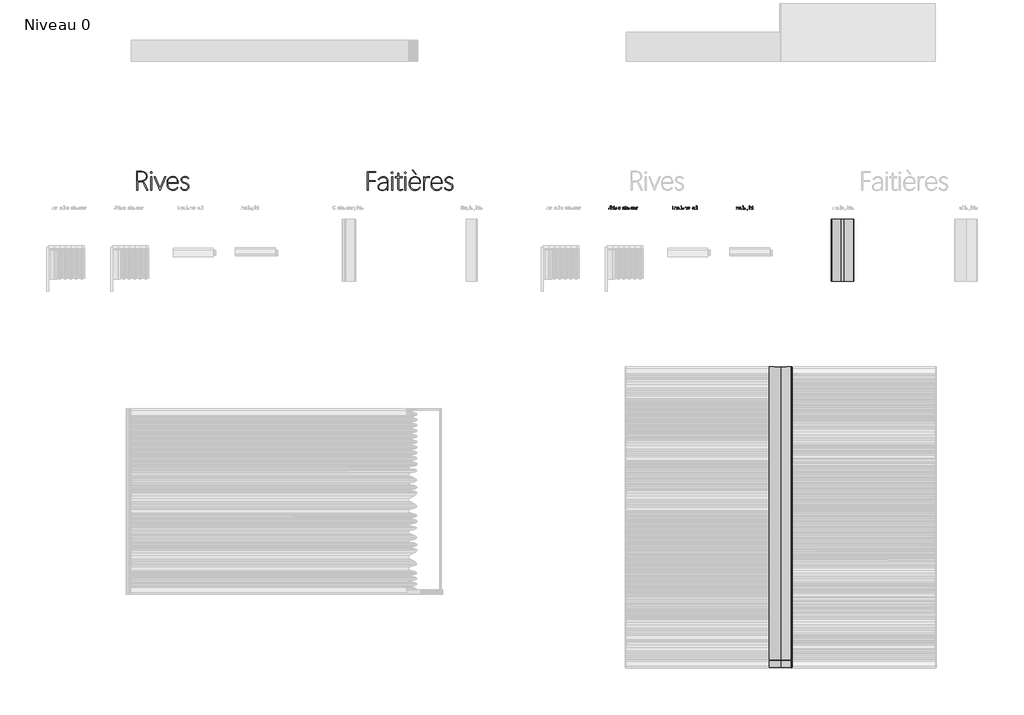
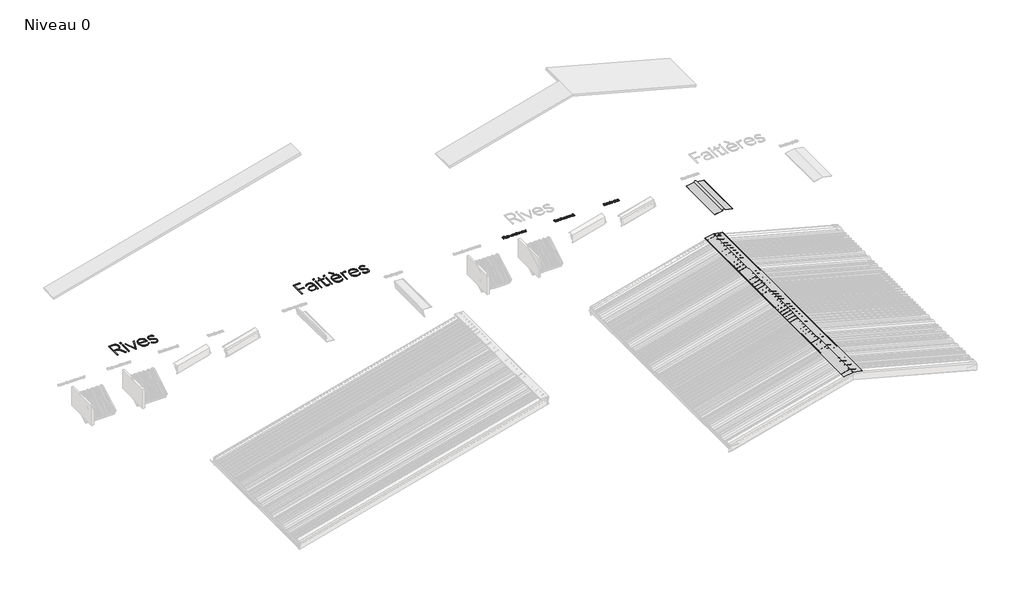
# One storey, part 21 of 26: 7 proxies.
"""IFC4 building model written with IfcOpenShell, lengths in millimetres."""

from ifc_helpers import new_model, si_unit, origin, origin_with_axes, place, context, project, spatial, polyline, outline, extrude, transform, mapped, element, save
from components import generic_models_b31ef93d, generic_models_02f5a9cf

model = new_model("IFC4")

# Units and contexts
model_context = context("Model", 3, world=origin())
ifc_project = project(units=[si_unit("LENGTHUNIT", "METRE", prefix="MILLI")], contexts=[model_context])

# Site, building, storey
site = spatial("IfcSite", under=ifc_project)
building = spatial("IfcBuilding", under=site)
storey = spatial("IfcBuildingStorey", under=building, Name="Niveau 0", Elevation=0.0)

# Proxies
placement = place(None, origin())
generic_models_shape = generic_models_b31ef93d(model_context)
element("IfcBuildingElementProxy", 1, Name="Faitiaire a bondin plat : Faitiaire a bondin plat", ObjectType="Faitiaire a bondin plat : Faitiaire a bondin plat", at=placement, inside=storey, context=model_context, shape_type="MappedRepresentation", body=[
    mapped(generic_models_shape, transform((36043.1822429, -8404.0846084, 0.0), x_axis=(0.0, -1.0, 0.0), y_axis=(1.0, 0.0, 0.0), z_axis=(0.0, 0.0, 1.0))),
])
generic_models_2_shape = generic_models_02f5a9cf(model_context)
element("IfcBuildingElementProxy", 2, Name="Faitaire a double plat : Faitaire a double plat", ObjectType="Faitaire a double plat : Faitaire a double plat", at=placement, inside=storey, context=model_context, shape_type="MappedRepresentation", body=[
    mapped(generic_models_2_shape, transform((35043.1824672, -10783.686041, 680.0), x_axis=(0.0, -1.0, 0.0), y_axis=(1.0, 0.0, 0.0), z_axis=(0.0, 0.0, 1.0))),
])
element("IfcBuildingElementProxy", 3, Name="0.5mm", ObjectType="0.5mm", at=placement, inside=storey, context=model_context, shape_type="SweptSolid", body=[
    extrude(outline(polyline([(34301.2173677, -8239.2596825), (34301.2173677, -8189.2569805), (34313.6696919, -8189.2569805), (34323.0721637, -8192.4481675), (34326.6278453, -8201.0398249), (34324.1358927, -8208.4487346), (34317.4931654, -8213.0011972), (34325.3632723, -8217.0627079), (34328.517266, -8225.6915586), (34324.5227033, -8235.4957183), (34313.9374838, -8239.2596825), (34301.2173677, -8239.2596825)]), holes=[polyline([(34303.5233537, -8191.4141931), (34303.5233537, -8212.2722081), (34311.1107914, -8212.2722081), (34320.6545978, -8209.237233), (34324.26235, -8201.1885981), (34321.3687096, -8193.9954097), (34313.2382494, -8191.4141931), (34303.5233537, -8191.4141931)]), polyline([(34303.5233537, -8214.3996661), (34303.5233537, -8237.0578378), (34313.5953053, -8237.0578378), (34322.8043718, -8234.0600561), (34326.1517708, -8225.8700866), (34322.246472, -8217.2561132), (34311.3339513, -8214.3996661), (34303.5233537, -8214.3996661)])]), origin_with_axes(), (0.0, 0.0, 1.0), 10.0),
    extrude(outline(polyline([(34361.4705493, -8239.2596825), (34359.2984593, -8239.2596825), (34359.2984593, -8232.3863566), (34354.0542009, -8237.9356002), (34346.5039565, -8240.0928129), (34338.470199, -8237.3033137), (34335.6286292, -8230.1547573), (34338.7305522, -8222.8871822), (34348.4677639, -8219.145534), (34359.3430913, -8217.6131691), (34359.3430913, -8215.5154658), (34356.6056628, -8207.4817082), (34349.196753, -8204.7442797), (34342.9705909, -8206.4179792), (34338.4850763, -8211.364691), (34336.5063916, -8210.2488914), (34341.9217393, -8204.6178224), (34349.196753, -8202.676331), (34358.1380276, -8206.0088527), (34361.4705493, -8215.5452204), (34361.4705493, -8239.2596825)]), holes=[polyline([(34359.2984593, -8225.3493801), (34359.2984593, -8219.6662405), (34348.7355558, -8221.094464), (34340.4935157, -8224.0699298), (34337.8602285, -8230.095248), (34340.2480398, -8235.9494768), (34346.6824845, -8238.1141282), (34355.5568111, -8234.4319893), (34359.2984593, -8225.3493801)])]), origin_with_axes(), (0.0, 0.0, 1.0), 10.0),
    extrude(outline(polyline([(34398.3960793, -8239.2596825), (34396.2686213, -8239.2596825), (34396.2686213, -8217.018076), (34393.5460701, -8207.9652214), (34385.9735098, -8204.7442797), (34377.4041684, -8208.19582), (34374.0865241, -8217.018076), (34374.0865241, -8239.2596825), (34371.9293114, -8239.2596825), (34371.9293114, -8203.5540934), (34374.0865241, -8203.5540934), (34374.0865241, -8209.6537982), (34378.9886039, -8204.4764878), (34386.0925284, -8202.676331), (34395.1676989, -8206.4626112), (34398.3960793, -8216.8097934), (34398.3960793, -8239.2596825)])), origin_with_axes(), (0.0, 0.0, 1.0), 10.0),
    extrude(outline(polyline([(34433.7966831, -8231.5532262), (34428.5821794, -8237.8314589), (34420.6674405, -8240.0928129), (34409.6805332, -8235.1237851), (34405.5371971, -8221.9275945), (34410.260749, -8207.8387641), (34421.9915227, -8202.676331), (34429.0136219, -8204.4021012), (34433.7446125, -8209.3116197), (34433.8487538, -8186.4005334), (34436.0059664, -8186.4005334), (34436.0059664, -8239.2596825), (34433.8487538, -8239.2596825), (34433.7966831, -8231.5532262)]), holes=[polyline([(34407.7687964, -8221.7936985), (34411.3765486, -8233.7699482), (34420.7269498, -8238.0397415), (34430.2707562, -8233.9410374), (34433.8487538, -8223.6087326), (34433.8487538, -8216.1403136), (34430.4641615, -8208.0172921), (34421.9468907, -8204.7442797), (34411.7931138, -8209.3413743), (34407.7687964, -8221.7936985)])]), origin_with_axes(), (0.0, 0.0, 1.0), 10.0),
    extrude(outline(polyline([(34474.0324188, -8220.4770549), (34446.7622751, -8220.7374082), (34450.3402727, -8233.7476322), (34460.196503, -8238.0694962), (34466.9508103, -8236.3957967), (34471.7264328, -8231.3746982), (34473.6158536, -8232.3863566), (34468.1409966, -8238.1661988), (34460.196503, -8240.1374449), (34448.8227852, -8235.3543837), (34444.5753078, -8220.6332669), (34448.9789971, -8207.5932882), (34460.196503, -8202.676331), (34470.4023505, -8207.176723), (34474.0324188, -8220.4770549)]), holes=[polyline([(34471.8305741, -8218.7289688), (34468.5724391, -8208.2776453), (34460.1221164, -8204.7442797), (34451.0246298, -8208.3669093), (34446.8664164, -8218.7289688), (34471.8305741, -8218.7289688)])]), origin_with_axes(), (0.0, 0.0, 1.0), 10.0),
    extrude(outline(polyline([(34501.7786369, -8233.1897323), (34501.6744956, -8255.6842534), (34499.517283, -8255.6842534), (34499.517283, -8203.5540934), (34501.6744956, -8203.5540934), (34501.6744956, -8211.6771149), (34506.896438, -8205.1905996), (34515.3467608, -8202.676331), (34526.0733148, -8207.5784109), (34530.0306843, -8220.320843), (34525.7013816, -8234.9303798), (34514.1565745, -8240.0928129), (34506.4947501, -8238.1587601), (34501.7786369, -8233.1897323)]), holes=[polyline([(34501.6744956, -8219.7257498), (34501.6744956, -8226.0783692), (34505.1781066, -8234.5361306), (34514.2012065, -8238.0397415), (34524.0648754, -8233.5616656), (34527.799085, -8220.3654749), (34524.3772993, -8209.0140731), (34515.2426195, -8204.7442797), (34505.2673705, -8209.1554077), (34501.6744956, -8219.7257498)])]), origin_with_axes(), (0.0, 0.0, 1.0), 10.0),
    extrude(outline(polyline([(34538.5553937, -8239.2596825), (34538.5553937, -8186.4005334), (34540.7126063, -8186.4005334), (34540.7126063, -8239.2596825), (34538.5553937, -8239.2596825)])), origin_with_axes(), (0.0, 0.0, 1.0), 10.0),
    extrude(outline(polyline([(34575.7040836, -8239.2596825), (34573.5319936, -8239.2596825), (34573.5319936, -8232.3863566), (34568.2877352, -8237.9356002), (34560.7374909, -8240.0928129), (34552.7037333, -8237.3033137), (34549.8621635, -8230.1547573), (34552.9640866, -8222.8871822), (34562.7012983, -8219.145534), (34573.5766256, -8217.6131691), (34573.5766256, -8215.5154658), (34570.8391971, -8207.4817082), (34563.4302874, -8204.7442797), (34557.2041253, -8206.4179792), (34552.7186106, -8211.364691), (34550.7399259, -8210.2488914), (34556.1552736, -8204.6178224), (34563.4302874, -8202.676331), (34572.371562, -8206.0088527), (34575.7040836, -8215.5452204), (34575.7040836, -8239.2596825)]), holes=[polyline([(34573.5319936, -8225.3493801), (34573.5319936, -8219.6662405), (34562.9690902, -8221.094464), (34554.72705, -8224.0699298), (34552.0937628, -8230.095248), (34554.4815741, -8235.9494768), (34560.9160188, -8238.1141282), (34569.7903454, -8234.4319893), (34573.5319936, -8225.3493801)])]), origin_with_axes(), (0.0, 0.0, 1.0), 10.0),
    extrude(outline(polyline([(34600.8021372, -8237.519035), (34597.8638648, -8239.3861398), (34594.6280458, -8239.9589169), (34589.59207, -8238.0025482), (34587.9034932, -8232.1483193), (34587.9034932, -8205.5476555), (34581.3574685, -8205.5476555), (34581.3574685, -8203.5540934), (34587.9034932, -8203.5540934), (34587.9034932, -8193.9582164), (34590.0607059, -8193.5862831), (34590.0607059, -8203.5540934), (34599.7904789, -8203.5540934), (34599.7904789, -8205.5476555), (34590.0607059, -8205.5476555), (34590.0607059, -8231.999546), (34591.2508922, -8236.4850607), (34594.7768191, -8237.9653549), (34597.2315783, -8237.496719), (34599.5524416, -8235.9420382), (34600.8021372, -8237.519035)])), origin_with_axes(), (0.0, 0.0, 1.0), 10.0),
])
element("IfcBuildingElementProxy", 4, Name="0.5mm", ObjectType="0.5mm", at=placement, inside=storey, context=model_context, shape_type="SweptSolid", body=[
    extrude(outline(polyline([(33301.2173677, -8239.2596825), (33301.2173677, -8189.2569805), (33313.6696919, -8189.2569805), (33323.0721637, -8192.4481675), (33326.6278453, -8201.0398249), (33324.1358927, -8208.4487346), (33317.4931654, -8213.0011972), (33325.3632723, -8217.0627079), (33328.517266, -8225.6915586), (33324.5227033, -8235.4957183), (33313.9374838, -8239.2596825), (33301.2173677, -8239.2596825)]), holes=[polyline([(33303.5233537, -8191.4141931), (33303.5233537, -8212.2722081), (33311.1107914, -8212.2722081), (33320.6545978, -8209.237233), (33324.26235, -8201.1885981), (33321.3687096, -8193.9954097), (33313.2382494, -8191.4141931), (33303.5233537, -8191.4141931)]), polyline([(33303.5233537, -8214.3996661), (33303.5233537, -8237.0578378), (33313.5953053, -8237.0578378), (33322.8043718, -8234.0600561), (33326.1517708, -8225.8700866), (33322.246472, -8217.2561132), (33311.3339513, -8214.3996661), (33303.5233537, -8214.3996661)])]), origin_with_axes(), (0.0, 0.0, 1.0), 10.0),
    extrude(outline(polyline([(33361.4705493, -8239.2596825), (33359.2984593, -8239.2596825), (33359.2984593, -8232.3863566), (33354.0542009, -8237.9356002), (33346.5039565, -8240.0928129), (33338.470199, -8237.3033137), (33335.6286292, -8230.1547573), (33338.7305522, -8222.8871822), (33348.4677639, -8219.145534), (33359.3430913, -8217.6131691), (33359.3430913, -8215.5154658), (33356.6056628, -8207.4817082), (33349.196753, -8204.7442797), (33342.9705909, -8206.4179792), (33338.4850763, -8211.364691), (33336.5063916, -8210.2488914), (33341.9217393, -8204.6178224), (33349.196753, -8202.676331), (33358.1380276, -8206.0088527), (33361.4705493, -8215.5452204), (33361.4705493, -8239.2596825)]), holes=[polyline([(33359.2984593, -8225.3493801), (33359.2984593, -8219.6662405), (33348.7355558, -8221.094464), (33340.4935157, -8224.0699298), (33337.8602285, -8230.095248), (33340.2480398, -8235.9494768), (33346.6824845, -8238.1141282), (33355.5568111, -8234.4319893), (33359.2984593, -8225.3493801)])]), origin_with_axes(), (0.0, 0.0, 1.0), 10.0),
    extrude(outline(polyline([(33398.3960793, -8239.2596825), (33396.2686213, -8239.2596825), (33396.2686213, -8217.018076), (33393.5460701, -8207.9652214), (33385.9735098, -8204.7442797), (33377.4041684, -8208.19582), (33374.0865241, -8217.018076), (33374.0865241, -8239.2596825), (33371.9293114, -8239.2596825), (33371.9293114, -8203.5540934), (33374.0865241, -8203.5540934), (33374.0865241, -8209.6537982), (33378.9886039, -8204.4764878), (33386.0925284, -8202.676331), (33395.1676989, -8206.4626112), (33398.3960793, -8216.8097934), (33398.3960793, -8239.2596825)])), origin_with_axes(), (0.0, 0.0, 1.0), 10.0),
    extrude(outline(polyline([(33433.7966831, -8231.5532262), (33428.5821794, -8237.8314589), (33420.6674405, -8240.0928129), (33409.6805332, -8235.1237851), (33405.5371971, -8221.9275945), (33410.260749, -8207.8387641), (33421.9915227, -8202.676331), (33429.0136219, -8204.4021012), (33433.7446125, -8209.3116197), (33433.8487538, -8186.4005334), (33436.0059664, -8186.4005334), (33436.0059664, -8239.2596825), (33433.8487538, -8239.2596825), (33433.7966831, -8231.5532262)]), holes=[polyline([(33407.7687964, -8221.7936985), (33411.3765486, -8233.7699482), (33420.7269498, -8238.0397415), (33430.2707562, -8233.9410374), (33433.8487538, -8223.6087326), (33433.8487538, -8216.1403136), (33430.4641615, -8208.0172921), (33421.9468907, -8204.7442797), (33411.7931138, -8209.3413743), (33407.7687964, -8221.7936985)])]), origin_with_axes(), (0.0, 0.0, 1.0), 10.0),
    extrude(outline(polyline([(33474.0324188, -8220.4770549), (33446.7622751, -8220.7374082), (33450.3402727, -8233.7476322), (33460.196503, -8238.0694962), (33466.9508103, -8236.3957967), (33471.7264328, -8231.3746982), (33473.6158536, -8232.3863566), (33468.1409966, -8238.1661988), (33460.196503, -8240.1374449), (33448.8227852, -8235.3543837), (33444.5753078, -8220.6332669), (33448.9789971, -8207.5932882), (33460.196503, -8202.676331), (33470.4023505, -8207.176723), (33474.0324188, -8220.4770549)]), holes=[polyline([(33471.8305741, -8218.7289688), (33468.5724391, -8208.2776453), (33460.1221164, -8204.7442797), (33451.0246298, -8208.3669093), (33446.8664164, -8218.7289688), (33471.8305741, -8218.7289688)])]), origin_with_axes(), (0.0, 0.0, 1.0), 10.0),
    extrude(outline(polyline([(33523.3358863, -8239.2596825), (33521.1637963, -8239.2596825), (33521.1637963, -8232.3863566), (33515.9195379, -8237.9356002), (33508.3692936, -8240.0928129), (33500.335536, -8237.3033137), (33497.4939662, -8230.1547573), (33500.5958893, -8222.8871822), (33510.333101, -8219.145534), (33521.2084283, -8217.6131691), (33521.2084283, -8215.5154658), (33518.4709998, -8207.4817082), (33511.0620901, -8204.7442797), (33504.835928, -8206.4179792), (33500.3504134, -8211.364691), (33498.3717286, -8210.2488914), (33503.7870763, -8204.6178224), (33511.0620901, -8202.676331), (33520.0033647, -8206.0088527), (33523.3358863, -8215.5452204), (33523.3358863, -8239.2596825)]), holes=[polyline([(33521.1637963, -8225.3493801), (33521.1637963, -8219.6662405), (33510.6008929, -8221.094464), (33502.3588527, -8224.0699298), (33499.7255656, -8230.095248), (33502.1133768, -8235.9494768), (33508.5478215, -8238.1141282), (33517.4221481, -8234.4319893), (33521.1637963, -8225.3493801)])]), origin_with_axes(), (0.0, 0.0, 1.0), 10.0),
    extrude(outline(polyline([(33549.5943716, -8205.5476555), (33547.8686015, -8204.960001), (33546.1428313, -8204.803789), (33538.8008696, -8209.0066344), (33535.9221065, -8221.1242187), (33535.9221065, -8239.2596825), (33533.7946484, -8239.2596825), (33533.7946484, -8203.5540934), (33535.9221065, -8203.5540934), (33535.9221065, -8211.4390777), (33539.9315466, -8205.071581), (33546.2469726, -8202.8251043), (33548.300044, -8202.9961936), (33550.427502, -8203.6582347), (33549.5943716, -8205.5476555)])), origin_with_axes(), (0.0, 0.0, 1.0), 10.0),
    extrude(outline(polyline([(33572.4459486, -8205.5476555), (33570.7201785, -8204.960001), (33568.9944083, -8204.803789), (33561.6524466, -8209.0066344), (33558.7736835, -8221.1242187), (33558.7736835, -8239.2596825), (33556.6462254, -8239.2596825), (33556.6462254, -8203.5540934), (33558.7736835, -8203.5540934), (33558.7736835, -8211.4390777), (33562.7831236, -8205.071581), (33569.0985496, -8202.8251043), (33571.151621, -8202.9961936), (33573.279079, -8203.6582347), (33572.4459486, -8205.5476555)])), origin_with_axes(), (0.0, 0.0, 1.0), 10.0),
    extrude(outline(polyline([(33593.7949154, -8240.0928129), (33581.5731898, -8234.9303798), (33576.9240246, -8221.4812746), (33581.7294018, -8207.9131508), (33593.9288113, -8202.676331), (33606.0687116, -8207.9280281), (33610.6658062, -8221.406888), (33606.0092023, -8234.8783092), (33593.7949154, -8240.0928129)]), holes=[polyline([(33593.869302, -8238.0397415), (33604.4619601, -8233.4054536), (33608.4342069, -8221.3771333), (33604.4768374, -8209.3636903), (33593.9288113, -8204.7442797), (33583.2468893, -8209.4455156), (33579.1556239, -8221.5110293), (33583.1799413, -8233.4575243), (33593.869302, -8238.0397415)])]), origin_with_axes(), (0.0, 0.0, 1.0), 10.0),
    extrude(outline(polyline([(33645.002681, -8239.2596825), (33642.875223, -8239.2596825), (33642.875223, -8217.018076), (33640.1526718, -8207.9652214), (33632.5801115, -8204.7442797), (33624.0107701, -8208.19582), (33620.6931258, -8217.018076), (33620.6931258, -8239.2596825), (33618.5359131, -8239.2596825), (33618.5359131, -8203.5540934), (33620.6931258, -8203.5540934), (33620.6931258, -8209.6537982), (33625.5952056, -8204.4764878), (33632.6991301, -8202.676331), (33641.7743007, -8206.4626112), (33645.002681, -8216.8097934), (33645.002681, -8239.2596825)])), origin_with_axes(), (0.0, 0.0, 1.0), 10.0),
    extrude(outline(polyline([(33680.4032848, -8231.5532262), (33675.1887811, -8237.8314589), (33667.2740422, -8240.0928129), (33656.2871349, -8235.1237851), (33652.1437988, -8221.9275945), (33656.8673507, -8207.8387641), (33668.5981245, -8202.676331), (33675.6202236, -8204.4021012), (33680.3512142, -8209.3116197), (33680.4553555, -8186.4005334), (33682.6125682, -8186.4005334), (33682.6125682, -8239.2596825), (33680.4553555, -8239.2596825), (33680.4032848, -8231.5532262)]), holes=[polyline([(33654.3753981, -8221.7936985), (33657.9831504, -8233.7699482), (33667.3335515, -8238.0397415), (33676.8773579, -8233.9410374), (33680.4553555, -8223.6087326), (33680.4553555, -8216.1403136), (33677.0707632, -8208.0172921), (33668.5534925, -8204.7442797), (33658.3997156, -8209.3413743), (33654.3753981, -8221.7936985)])]), origin_with_axes(), (0.0, 0.0, 1.0), 10.0),
    extrude(outline(polyline([(33694.6334498, -8194.8359788), (33692.989505, -8194.211131), (33692.3274638, -8192.5746248), (33692.989505, -8190.93068), (33694.6334498, -8190.2983935), (33696.314588, -8190.93068), (33696.9245584, -8192.5746248), (33696.314588, -8194.211131), (33694.6334498, -8194.8359788)])), origin_with_axes(), (0.0, 0.0, 1.0), 10.0),
    extrude(outline(polyline([(33695.7492495, -8239.2596825), (33693.5771595, -8239.2596825), (33693.5771595, -8203.5540934), (33695.7492495, -8203.5540934), (33695.7492495, -8239.2596825)])), origin_with_axes(), (0.0, 0.0, 1.0), 10.0),
])
element("IfcBuildingElementProxy", 5, Name="0.5mm", ObjectType="0.5mm", at=placement, inside=storey, context=model_context, shape_type="SweptSolid", body=[
    extrude(outline(polyline([(32263.5233537, -8218.967006), (32263.5233537, -8239.2596825), (32261.2173677, -8239.2596825), (32261.2173677, -8189.2569805), (32271.8100258, -8189.2569805), (32283.5482382, -8193.0730153), (32287.9221729, -8203.6879894), (32283.5631156, -8214.7269673), (32271.1554234, -8218.967006), (32263.5233537, -8218.967006)]), holes=[polyline([(32263.5233537, -8191.4141931), (32263.5233537, -8216.7651614), (32271.185178, -8216.7651614), (32281.7480815, -8213.3880077), (32285.5864323, -8203.8367627), (32281.8894161, -8194.7095215), (32271.5719886, -8191.4141931), (32263.5233537, -8191.4141931)])]), origin_with_axes(), (0.0, 0.0, 1.0), 10.0),
    extrude(outline(polyline([(32297.6519459, -8239.2596825), (32297.6519459, -8186.4005334), (32299.8091586, -8186.4005334), (32299.8091586, -8239.2596825), (32297.6519459, -8239.2596825)])), origin_with_axes(), (0.0, 0.0, 1.0), 10.0),
    extrude(outline(polyline([(32334.8006359, -8239.2596825), (32332.6285459, -8239.2596825), (32332.6285459, -8232.3863566), (32327.3842875, -8237.9356002), (32319.8340431, -8240.0928129), (32311.8002856, -8237.3033137), (32308.9587158, -8230.1547573), (32312.0606388, -8222.8871822), (32321.7978505, -8219.145534), (32332.6731778, -8217.6131691), (32332.6731778, -8215.5154658), (32329.9357493, -8207.4817082), (32322.5268396, -8204.7442797), (32316.3006775, -8206.4179792), (32311.8151629, -8211.364691), (32309.8364782, -8210.2488914), (32315.2518258, -8204.6178224), (32322.5268396, -8202.676331), (32331.4681142, -8206.0088527), (32334.8006359, -8215.5452204), (32334.8006359, -8239.2596825)]), holes=[polyline([(32332.6285459, -8225.3493801), (32332.6285459, -8219.6662405), (32322.0656424, -8221.094464), (32313.8236023, -8224.0699298), (32311.1903151, -8230.095248), (32313.5781264, -8235.9494768), (32320.0125711, -8238.1141282), (32328.8868977, -8234.4319893), (32332.6285459, -8225.3493801)])]), origin_with_axes(), (0.0, 0.0, 1.0), 10.0),
    extrude(outline(polyline([(32359.8986895, -8237.519035), (32356.9604171, -8239.3861398), (32353.7245981, -8239.9589169), (32348.6886223, -8238.0025482), (32347.0000454, -8232.1483193), (32347.0000454, -8205.5476555), (32340.4540208, -8205.5476555), (32340.4540208, -8203.5540934), (32347.0000454, -8203.5540934), (32347.0000454, -8193.9582164), (32349.1572581, -8193.5862831), (32349.1572581, -8203.5540934), (32358.8870311, -8203.5540934), (32358.8870311, -8205.5476555), (32349.1572581, -8205.5476555), (32349.1572581, -8231.999546), (32350.3474444, -8236.4850607), (32353.8733713, -8237.9653549), (32356.3281306, -8237.496719), (32358.6489939, -8235.9420382), (32359.8986895, -8237.519035)])), origin_with_axes(), (0.0, 0.0, 1.0), 10.0),
    extrude(outline(polyline([(32393.09001, -8220.4770549), (32365.8198663, -8220.7374082), (32369.3978639, -8233.7476322), (32379.2540942, -8238.0694962), (32386.0084015, -8236.3957967), (32390.784024, -8231.3746982), (32392.6734448, -8232.3863566), (32387.1985878, -8238.1661988), (32379.2540942, -8240.1374449), (32367.8803764, -8235.3543837), (32363.632899, -8220.6332669), (32368.0365883, -8207.5932882), (32379.2540942, -8202.676331), (32389.4599418, -8207.176723), (32393.09001, -8220.4770549)]), holes=[polyline([(32390.8881653, -8218.7289688), (32387.6300303, -8208.2776453), (32379.1797076, -8204.7442797), (32370.082221, -8208.3669093), (32365.9240076, -8218.7289688), (32390.8881653, -8218.7289688)])]), origin_with_axes(), (0.0, 0.0, 1.0), 10.0),
    extrude(outline(polyline([(32444.9672554, -8233.4426469), (32439.6709264, -8238.3521654), (32432.0686114, -8240.0928129), (32420.5312429, -8235.0196438), (32416.0010963, -8221.4812746), (32420.7023322, -8207.7495001), (32432.5893179, -8202.676331), (32439.6188557, -8204.3202759), (32444.8928688, -8209.2074784), (32443.1968533, -8210.3827873), (32438.4658627, -8206.02373), (32432.5595632, -8204.6996477), (32422.2718904, -8209.1851624), (32418.2326956, -8221.5110293), (32422.1677491, -8233.5393496), (32432.142998, -8238.0397415), (32438.5551267, -8236.5743246), (32443.2563626, -8232.178074), (32444.9672554, -8233.4426469)])), origin_with_axes(), (0.0, 0.0, 1.0), 10.0),
    extrude(outline(polyline([(32467.1493526, -8240.0928129), (32454.927627, -8234.9303798), (32450.2784618, -8221.4812746), (32455.083839, -8207.9131508), (32467.2832486, -8202.676331), (32479.4231489, -8207.9280281), (32484.0202434, -8221.406888), (32479.3636395, -8234.8783092), (32467.1493526, -8240.0928129)]), holes=[polyline([(32467.2237393, -8238.0397415), (32477.8163973, -8233.4054536), (32481.7886441, -8221.3771333), (32477.8312747, -8209.3636903), (32467.2832486, -8204.7442797), (32456.6013265, -8209.4455156), (32452.5100611, -8221.5110293), (32456.5343785, -8233.4575243), (32467.2237393, -8238.0397415)])]), origin_with_axes(), (0.0, 0.0, 1.0), 10.0),
    extrude(outline(polyline([(32518.3571182, -8239.2596825), (32516.2296602, -8239.2596825), (32516.2296602, -8217.018076), (32513.5071091, -8207.9652214), (32505.9345487, -8204.7442797), (32497.3652074, -8208.19582), (32494.047563, -8217.018076), (32494.047563, -8239.2596825), (32491.8903504, -8239.2596825), (32491.8903504, -8203.5540934), (32494.047563, -8203.5540934), (32494.047563, -8209.6537982), (32498.9496429, -8204.4764878), (32506.0535674, -8202.676331), (32515.1287379, -8206.4626112), (32518.3571182, -8216.8097934), (32518.3571182, -8239.2596825)])), origin_with_axes(), (0.0, 0.0, 1.0), 10.0),
    extrude(outline(polyline([(32542.7113054, -8237.519035), (32539.773033, -8239.3861398), (32536.537214, -8239.9589169), (32531.5012382, -8238.0025482), (32529.8126614, -8232.1483193), (32529.8126614, -8205.5476555), (32523.2666367, -8205.5476555), (32523.2666367, -8203.5540934), (32529.8126614, -8203.5540934), (32529.8126614, -8193.9582164), (32531.9698741, -8193.5862831), (32531.9698741, -8203.5540934), (32541.6996471, -8203.5540934), (32541.6996471, -8205.5476555), (32531.9698741, -8205.5476555), (32531.9698741, -8231.999546), (32533.1600604, -8236.4850607), (32536.6859873, -8237.9653549), (32539.1407465, -8237.496719), (32541.4616098, -8235.9420382), (32542.7113054, -8237.519035)])), origin_with_axes(), (0.0, 0.0, 1.0), 10.0),
    extrude(outline(polyline([(32564.819016, -8205.5476555), (32563.0932459, -8204.960001), (32561.3674757, -8204.803789), (32554.025514, -8209.0066344), (32551.1467509, -8221.1242187), (32551.1467509, -8239.2596825), (32549.0192928, -8239.2596825), (32549.0192928, -8203.5540934), (32551.1467509, -8203.5540934), (32551.1467509, -8211.4390777), (32555.156191, -8205.071581), (32561.471617, -8202.8251043), (32563.5246884, -8202.9961936), (32565.6521464, -8203.6582347), (32564.819016, -8205.5476555)])), origin_with_axes(), (0.0, 0.0, 1.0), 10.0),
    extrude(outline(polyline([(32598.7542029, -8220.4770549), (32571.4840593, -8220.7374082), (32575.0620569, -8233.7476322), (32584.9182872, -8238.0694962), (32591.6725944, -8236.3957967), (32596.448217, -8231.3746982), (32598.3376377, -8232.3863566), (32592.8627807, -8238.1661988), (32584.9182872, -8240.1374449), (32573.5445693, -8235.3543837), (32569.297092, -8220.6332669), (32573.7007813, -8207.5932882), (32584.9182872, -8202.676331), (32595.1241347, -8207.176723), (32598.7542029, -8220.4770549)]), holes=[polyline([(32596.5523583, -8218.7289688), (32593.2942233, -8208.2776453), (32584.8439005, -8204.7442797), (32575.746414, -8208.3669093), (32571.5882006, -8218.7289688), (32596.5523583, -8218.7289688)])]), origin_with_axes(), (0.0, 0.0, 1.0), 10.0),
    extrude(outline(polyline([(32670.9241248, -8239.2596825), (32668.7966668, -8239.2596825), (32668.7966668, -8217.018076), (32666.3195916, -8207.7420615), (32659.4537043, -8204.7442797), (32651.769564, -8208.262768), (32648.6825183, -8217.2263586), (32648.6825183, -8239.2596825), (32646.5253056, -8239.2596825), (32646.5253056, -8216.839548), (32644.2416357, -8207.9131508), (32637.4501351, -8204.7442797), (32629.4833255, -8208.1214334), (32626.3962798, -8216.973444), (32626.3962798, -8239.2596825), (32624.2390671, -8239.2596825), (32624.2390671, -8203.5540934), (32626.3962798, -8203.5540934), (32626.3962798, -8209.371129), (32631.1272703, -8204.3723465), (32637.628663, -8202.676331), (32644.4796729, -8205.0120716), (32647.9535292, -8211.2307951), (32652.5506238, -8204.9302463), (32659.483459, -8202.676331), (32667.9784137, -8206.2915219), (32670.9241248, -8216.839548), (32670.9241248, -8239.2596825)])), origin_with_axes(), (0.0, 0.0, 1.0), 10.0),
    extrude(outline(polyline([(32707.1057884, -8239.2299278), (32704.9783304, -8239.2299278), (32704.9783304, -8233.1153457), (32700.0241799, -8238.3000948), (32693.1210993, -8240.0928129), (32683.9864195, -8236.366042), (32680.6390205, -8226.0486145), (32680.6390205, -8203.5243388), (32682.7962332, -8203.5243388), (32682.7962332, -8225.8403319), (32685.6006096, -8234.7816065), (32693.2996273, -8238.0397415), (32701.6606861, -8234.5733239), (32704.9783304, -8225.7659453), (32704.9783304, -8203.5243388), (32707.1057884, -8203.5243388), (32707.1057884, -8239.2299278)])), origin_with_axes(), (0.0, 0.0, 1.0), 10.0),
    extrude(outline(polyline([(32733.3493963, -8205.5476555), (32731.6236262, -8204.960001), (32729.8978561, -8204.803789), (32722.5558943, -8209.0066344), (32719.6771312, -8221.1242187), (32719.6771312, -8239.2596825), (32717.5496732, -8239.2596825), (32717.5496732, -8203.5540934), (32719.6771312, -8203.5540934), (32719.6771312, -8211.4390777), (32723.6865713, -8205.071581), (32730.0019974, -8202.8251043), (32732.0550687, -8202.9961936), (32734.1825268, -8203.6582347), (32733.3493963, -8205.5476555)])), origin_with_axes(), (0.0, 0.0, 1.0), 10.0),
])
element("IfcBuildingElementProxy", 6, Name="3 mm", ObjectType="3 mm", at=placement, inside=storey, context=model_context, shape_type="SweptSolid", body=[
    extrude(outline(polyline([(28494.5792567, -7642.2780058), (28372.6875168, -7642.2780058), (28372.6875168, -7774.3574429), (28486.1045351, -7774.3574429), (28486.1045351, -7787.7006215), (28372.6875168, -7787.7006215), (28372.6875168, -7932.2216711), (28358.7132419, -7932.2216711), (28358.7132419, -7629.205297), (28494.5792567, -7629.205297), (28494.5792567, -7642.2780058)])), origin_with_axes(), (0.0, 0.0, 1.0), 10.0),
    extrude(outline(polyline([(28689.2273828, -7932.2216711), (28676.0645174, -7932.2216711), (28676.0645174, -7890.5693162), (28662.3719819, -7909.2542741), (28644.2843115, -7924.1977326), (28622.5452984, -7934.0022642), (28598.5298307, -7937.2704414), (28570.6263592, -7933.0443502), (28549.8452601, -7920.3660766), (28536.9303253, -7901.0838311), (28532.6253471, -7877.0458244), (28537.3247605, -7852.5119562), (28551.4230008, -7833.0043192), (28575.5737033, -7818.8384615), (28610.4305036, -7810.3299312), (28676.3349872, -7801.0438001), (28676.3349872, -7788.3317178), (28672.187783, -7760.1126981), (28659.7461705, -7739.6471471), (28640.227264, -7727.2055346), (28614.8481776, -7723.0583304), (28594.7319834, -7725.5939852), (28577.1176353, -7733.2009493), (28562.1403681, -7745.7665272), (28549.9354167, -7763.1780229), (28537.9445872, -7756.416277), (28552.6851934, -7736.7057876), (28570.7615941, -7722.2919992), (28591.655389, -7713.4679208), (28614.8481776, -7710.5265613), (28645.38873, -7715.5753316), (28669.0323016, -7730.7216425), (28677.8676496, -7741.9066972), (28684.1786125, -7755.2667802), (28689.2273828, -7788.512031), (28689.2273828, -7932.2216711)]), holes=[polyline([(28676.0645174, -7847.9252386), (28676.0645174, -7813.4854126), (28612.0533226, -7822.1404474), (28582.5721103, -7828.9472717), (28562.1065593, -7840.1717699), (28550.1382691, -7856.0167945), (28546.148839, -7876.6851979), (28549.766373, -7896.7337746), (28560.6189752, -7912.1618249), (28577.6022271, -7922.0001652), (28599.6117101, -7925.279612), (28628.6083305, -7919.7011716), (28653.3901294, -7902.9658504), (28670.3959204, -7878.0488167), (28676.0645174, -7847.9252386)])]), origin_with_axes(), (0.0, 0.0, 1.0), 10.0),
    extrude(outline(polyline([(28757.9267214, -7663.0140266), (28747.9644157, -7659.2274489), (28743.9524465, -7649.3102215), (28747.9644157, -7639.3479159), (28757.9267214, -7635.5162598), (28768.1144186, -7639.3479159), (28771.8108397, -7649.3102215), (28768.1144186, -7659.2274489), (28757.9267214, -7663.0140266)])), origin_with_axes(), (0.0, 0.0, 1.0), 10.0),
    extrude(outline(polyline([(28764.6884673, -7932.2216711), (28751.5256019, -7932.2216711), (28751.5256019, -7715.8458014), (28764.6884673, -7715.8458014), (28764.6884673, -7932.2216711)])), origin_with_axes(), (0.0, 0.0, 1.0), 10.0),
    extrude(outline(polyline([(28927.8719357, -7921.6733475), (28910.0660048, -7932.9880023), (28890.4569416, -7936.4590319), (28872.6848194, -7933.4951333), (28859.9389283, -7924.6034374), (28852.2643467, -7909.8064834), (28849.7061528, -7889.1268104), (28849.7061528, -7727.9267875), (28810.0372433, -7727.9267875), (28810.0372433, -7715.8458014), (28849.7061528, -7715.8458014), (28849.7061528, -7657.6947865), (28862.7788616, -7655.4408712), (28862.7788616, -7715.8458014), (28921.7412861, -7715.8458014), (28921.7412861, -7727.9267875), (28862.7788616, -7727.9267875), (28862.7788616, -7888.2252443), (28864.5819938, -7904.1266168), (28869.9913906, -7915.4074629), (28878.9394343, -7922.1354001), (28891.3585077, -7924.3780458), (28906.2343487, -7921.5381126), (28920.2987803, -7912.1167466), (28927.8719357, -7921.6733475)])), origin_with_axes(), (0.0, 0.0, 1.0), 10.0),
    extrude(outline(polyline([(28971.4175795, -7663.0140266), (28961.4552738, -7659.2274489), (28957.4433045, -7649.3102215), (28961.4552738, -7639.3479159), (28971.4175795, -7635.5162598), (28981.6052767, -7639.3479159), (28985.3016978, -7649.3102215), (28981.6052767, -7659.2274489), (28971.4175795, -7663.0140266)])), origin_with_axes(), (0.0, 0.0, 1.0), 10.0),
    extrude(outline(polyline([(28978.1793254, -7932.2216711), (28965.01646, -7932.2216711), (28965.01646, -7715.8458014), (28978.1793254, -7715.8458014), (28978.1793254, -7932.2216711)])), origin_with_axes(), (0.0, 0.0, 1.0), 10.0),
    extrude(outline(polyline([(29215.5616857, -7819.9766887), (29050.3046153, -7819.9766887), (29051.4231207, -7844.7162266), (29055.4097335, -7866.1030655), (29062.2644534, -7884.1372054), (29071.9872806, -7898.8186462), (29084.0879884, -7910.2093707), (29098.0763503, -7918.3713615), (29113.9523662, -7923.3046187), (29131.7160362, -7925.0091421), (29153.4437798, -7922.4734874), (29172.6471383, -7914.8665232), (29188.8527893, -7902.1882496), (29201.5874108, -7884.4386666), (29213.0373006, -7890.5693162), (29198.522086, -7910.8658236), (29179.8596672, -7925.5951601), (29157.4557491, -7934.5544735), (29131.7160362, -7937.5409112), (29111.2138591, -7935.6279006), (29092.892345, -7930.1593386), (29076.751494, -7921.1352252), (29062.7913061, -7908.5555604), (29051.5301817, -7892.211857), (29043.4865215, -7871.8956279), (29038.6603253, -7847.606873), (29037.0515933, -7819.3455924), (29038.7194906, -7795.9471341), (29043.7231826, -7774.9772696), (29052.0626692, -7756.4359988), (29063.7379505, -7740.3233217), (29077.9939648, -7727.287239), (29094.0756506, -7717.9757514), (29111.9830077, -7712.3888588), (29131.7160362, -7710.5265613), (29150.5249595, -7712.2310848), (29167.1025066, -7717.3446551), (29181.4486775, -7725.8672724), (29193.5634723, -7737.7989366), (29203.1876907, -7752.9649692), (29210.0621324, -7771.1906919), (29215.5616857, -7816.8212073), (29215.5616857, -7819.9766887)]), holes=[polyline([(29202.2185071, -7807.8055461), (29196.8767278, -7771.0103786), (29190.8080609, -7756.4585379), (29182.474209, -7744.4705259), (29160.2055257, -7728.4113793), (29131.2652532, -7723.0583304), (29100.8035878, -7728.5466142), (29076.1344847, -7745.0114655), (29066.3947532, -7757.1685212), (29058.9483805, -7771.6865532), (29050.9357116, -7807.8055461), (29202.2185071, -7807.8055461)])]), origin_with_axes(), (0.0, 0.0, 1.0), 10.0),
    extrude(outline(polyline([(29150.6489248, -7674.8245428), (29137.125433, -7674.8245428), (29086.0066338, -7607.2070836), (29101.1529446, -7607.2070836), (29150.6489248, -7674.8245428)])), origin_with_axes(), (0.0, 0.0, 1.0), 10.0),
    extrude(outline(polyline([(29361.8858676, -7727.9267875), (29351.4277006, -7724.3656013), (29340.9695335, -7723.4189569), (29328.0461466, -7725.0107846), (29316.3229696, -7729.7862676), (29296.4772453, -7748.8881999), (29283.393267, -7779.9809616), (29279.0319408, -7822.3207606), (29279.0319408, -7932.2216711), (29266.1395453, -7932.2216711), (29266.1395453, -7715.8458014), (29279.0319408, -7715.8458014), (29279.0319408, -7763.628806), (29289.2759859, -7741.4953577), (29303.3291479, -7725.0417759), (29321.0336526, -7714.8315396), (29341.6006298, -7711.4281274), (29354.0422423, -7712.4649285), (29366.9346379, -7716.4768977), (29361.8858676, -7727.9267875)])), origin_with_axes(), (0.0, 0.0, 1.0), 10.0),
    extrude(outline(polyline([(29567.5331004, -7819.9766887), (29402.2760299, -7819.9766887), (29403.3945354, -7844.7162266), (29407.3811481, -7866.1030655), (29414.235868, -7884.1372054), (29423.9586952, -7898.8186462), (29436.059403, -7910.2093707), (29450.0477649, -7918.3713615), (29465.9237809, -7923.3046187), (29483.6874509, -7925.0091421), (29505.4151945, -7922.4734874), (29524.6185529, -7914.8665232), (29540.824204, -7902.1882496), (29553.5588255, -7884.4386666), (29565.0087152, -7890.5693162), (29550.4935007, -7910.8658236), (29531.8310819, -7925.5951601), (29509.4271637, -7934.5544735), (29483.6874509, -7937.5409112), (29463.1852738, -7935.6279006), (29444.8637597, -7930.1593386), (29428.7229087, -7921.1352252), (29414.7627207, -7908.5555604), (29403.5015964, -7892.211857), (29395.4579361, -7871.8956279), (29390.63174, -7847.606873), (29389.0230079, -7819.3455924), (29390.6909052, -7795.9471341), (29395.6945972, -7774.9772696), (29404.0340839, -7756.4359988), (29415.7093652, -7740.3233217), (29429.9653795, -7727.287239), (29446.0470652, -7717.9757514), (29463.9544224, -7712.3888588), (29483.6874509, -7710.5265613), (29502.4963741, -7712.2310848), (29519.0739212, -7717.3446551), (29533.4200922, -7725.8672724), (29545.534887, -7737.7989366), (29555.1591053, -7752.9649692), (29562.033547, -7771.1906919), (29567.5331004, -7816.8212073), (29567.5331004, -7819.9766887)]), holes=[polyline([(29554.1899218, -7807.8055461), (29548.8481425, -7771.0103786), (29542.7794755, -7756.4585379), (29534.4456237, -7744.4705259), (29512.1769404, -7728.4113793), (29483.2366678, -7723.0583304), (29452.7750024, -7728.5466142), (29428.1058994, -7745.0114655), (29418.3661678, -7757.1685212), (29410.9197951, -7771.6865532), (29402.9071262, -7807.8055461), (29554.1899218, -7807.8055461)])]), origin_with_axes(), (0.0, 0.0, 1.0), 10.0),
    extrude(outline(polyline([(29606.93154, -7895.25746), (29619.1928393, -7889.3071236), (29628.7607098, -7904.7915218), (29641.9573839, -7916.0836375), (29658.6025485, -7922.9806183), (29678.5158902, -7925.279612), (29698.2376492, -7922.0565131), (29714.6686918, -7912.3872164), (29725.7579551, -7897.1732881), (29729.4543762, -7877.3162942), (29726.5468254, -7860.2766945), (29717.8241732, -7846.8433592), (29701.2353565, -7835.3709303), (29674.7293125, -7824.2140495), (29646.7356844, -7812.2457592), (29629.1100666, -7799.6012943), (29619.7788573, -7784.9057665), (29616.6684541, -7766.7842874), (29621.2551718, -7743.6365772), (29635.0153247, -7725.7630288), (29655.6048411, -7714.3356782), (29680.6796489, -7710.5265613), (29698.9589021, -7712.6227026), (29715.7505711, -7718.9111263), (29730.2207074, -7729.0988235), (29741.5353622, -7742.8927852), (29730.2657857, -7749.203748), (29720.8669589, -7737.7087799), (29708.7183553, -7729.3692933), (29694.834237, -7724.2979839), (29680.2288658, -7722.6075474), (29660.0563238, -7725.5376373), (29643.8957511, -7734.327907), (29633.27981, -7747.9190163), (29629.7411629, -7765.251625), (29632.1979306, -7779.6654134), (29639.5682337, -7791.1716511), (29654.489153, -7801.3480787), (29679.5977696, -7811.772437), (29709.4396082, -7824.3718236), (29728.8232799, -7838.0080112), (29739.439221, -7854.6419062), (29742.977868, -7876.2344148), (29738.3009938, -7901.6698491), (29724.270371, -7920.9971729), (29703.4780023, -7933.2021243), (29678.5158902, -7937.2704414), (29654.5004226, -7934.4192385), (29634.3842285, -7925.8656299), (29618.4377776, -7912.5111817), (29606.93154, -7895.25746)])), origin_with_axes(), (0.0, 0.0, 1.0), 10.0),
])
element("IfcBuildingElementProxy", 7, Name="3 mm", ObjectType="3 mm", at=placement, inside=storey, context=model_context, shape_type="SweptSolid", body=[
    extrude(outline(polyline([(24804.4475334, -7929.2596825), (24789.0307527, -7929.2596825), (24749.2716866, -7838.6522871), (24736.8638828, -7815.7186988), (24723.8024436, -7801.0119014), (24708.2166193, -7793.0668499), (24688.23566, -7790.4184994), (24643.8786068, -7790.4184994), (24643.8786068, -7929.2596825), (24629.9043318, -7929.2596825), (24629.9043318, -7626.2433083), (24707.4390185, -7626.2433083), (24742.340897, -7631.573818), (24756.9603552, -7638.2369552), (24769.6921593, -7647.5653472), (24780.0066392, -7659.1701936), (24787.3741249, -7672.6626941), (24791.7946163, -7688.0428487), (24793.2681134, -7705.3106574), (24788.0841082, -7734.5439389), (24772.5320926, -7758.9538417), (24749.0688342, -7776.7597727), (24720.1511008, -7786.1811387), (24732.7842961, -7792.2103621), (24743.2762719, -7801.7331543), (24761.7132991, -7833.3330469), (24804.4475334, -7929.2596825)]), holes=[polyline([(24643.8786068, -7639.1357039), (24643.8786068, -7777.5261039), (24698.1528874, -7777.5261039), (24731.0938596, -7772.4886032), (24756.8899203, -7757.376101), (24773.5576241, -7734.487591), (24779.1135253, -7706.1220669), (24774.2225291, -7678.308752), (24759.5495404, -7657.0768698), (24736.379291, -7643.6209954), (24705.9965127, -7639.1357039), (24643.8786068, -7639.1357039)])]), origin_with_axes(), (0.0, 0.0, 1.0), 10.0),
    extrude(outline(polyline([(24861.7871388, -7660.052038), (24851.8248332, -7656.2654602), (24847.8128639, -7646.3482329), (24851.8248332, -7636.3859272), (24861.7871388, -7632.5542712), (24871.974836, -7636.3859272), (24875.6712571, -7646.3482329), (24871.974836, -7656.2654602), (24861.7871388, -7660.052038)])), origin_with_axes(), (0.0, 0.0, 1.0), 10.0),
    extrude(outline(polyline([(24868.5488848, -7929.2596825), (24855.3860194, -7929.2596825), (24855.3860194, -7712.8838128), (24868.5488848, -7712.8838128), (24868.5488848, -7929.2596825)])), origin_with_axes(), (0.0, 0.0, 1.0), 10.0),
    extrude(outline(polyline([(25094.3010421, -7712.8838128), (25008.742417, -7929.2596825), (24998.1940933, -7929.2596825), (24913.8976608, -7712.8838128), (24928.4128754, -7712.8838128), (24997.562997, -7891.6643751), (25000.8086351, -7899.9587835), (25003.4231768, -7907.0811558), (25007.1646763, -7899.6883136), (25010.1849228, -7892.0250016), (25080.3267672, -7712.8838128), (25094.3010421, -7712.8838128)])), origin_with_axes(), (0.0, 0.0, 1.0), 10.0),
    extrude(outline(polyline([(25296.3420104, -7817.0147001), (25131.08494, -7817.0147001), (25132.2034454, -7841.754238), (25136.1900581, -7863.1410769), (25143.0447781, -7881.1752168), (25152.7676052, -7895.8566576), (25164.868313, -7907.2473821), (25178.8566749, -7915.4093729), (25194.7326909, -7920.34263), (25212.4963609, -7922.0471535), (25234.2241045, -7919.5114988), (25253.4274629, -7911.9045346), (25269.633114, -7899.226261), (25282.3677355, -7881.4766779), (25293.8176253, -7887.6073276), (25279.3024107, -7907.9038349), (25260.6399919, -7922.6331715), (25238.2360737, -7931.5924848), (25212.4963609, -7934.5789226), (25191.9941838, -7932.665912), (25173.6726697, -7927.19735), (25157.5318187, -7918.1732366), (25143.5716308, -7905.5935717), (25132.3105064, -7889.2498683), (25124.2668461, -7868.9336392), (25119.44065, -7844.6448844), (25117.8319179, -7816.3836038), (25119.4998153, -7792.9851455), (25124.5035073, -7772.0152809), (25132.8429939, -7753.4740101), (25144.5182752, -7737.3613331), (25158.7742895, -7724.3252504), (25174.8559753, -7715.0137628), (25192.7633324, -7709.4268702), (25212.4963609, -7707.5645727), (25231.3052842, -7709.2690961), (25247.8828313, -7714.3826665), (25262.2290022, -7722.9052838), (25274.343797, -7734.8369479), (25283.9680154, -7750.0029806), (25290.8424571, -7768.2287032), (25296.3420104, -7813.8592187), (25296.3420104, -7817.0147001)]), holes=[polyline([(25282.9988318, -7804.8435574), (25277.6570525, -7768.04839), (25271.5883855, -7753.4965493), (25263.2545337, -7741.5085372), (25240.9858504, -7725.4493907), (25212.0455779, -7720.0963418), (25181.5839125, -7725.5846256), (25156.9148094, -7742.0494769), (25147.1750779, -7754.2065326), (25139.7287052, -7768.7245646), (25131.7160362, -7804.8435574), (25282.9988318, -7804.8435574)])]), origin_with_axes(), (0.0, 0.0, 1.0), 10.0),
    extrude(outline(polyline([(25335.74045, -7892.2954714), (25348.0017493, -7886.345135), (25357.5696198, -7901.8295332), (25370.7662939, -7913.1216489), (25387.4114585, -7920.0186297), (25407.3248002, -7922.3176233), (25427.0465592, -7919.0945244), (25443.4776018, -7909.4252278), (25454.5668651, -7894.2112994), (25458.2632862, -7874.3543056), (25455.3557355, -7857.3147058), (25446.6330832, -7843.8813706), (25430.0442665, -7832.4089416), (25403.5382225, -7821.2520609), (25375.5445944, -7809.2837706), (25357.9189767, -7796.6393057), (25348.5877673, -7781.9437779), (25345.4773641, -7763.8222988), (25350.0640818, -7740.6745886), (25363.8242348, -7722.8010402), (25384.4137511, -7711.3736896), (25409.4885589, -7707.5645727), (25427.7678121, -7709.6607139), (25444.5594811, -7715.9491376), (25459.0296174, -7726.1368348), (25470.3442723, -7739.9307965), (25459.0746957, -7746.2417594), (25449.6758689, -7734.7467913), (25437.5272654, -7726.4073047), (25423.6431471, -7721.3359952), (25409.0377759, -7719.6455587), (25388.8652338, -7722.5756486), (25372.7046611, -7731.3659183), (25362.08872, -7744.9570277), (25358.5500729, -7762.2896364), (25361.0068406, -7776.7034248), (25368.3771437, -7788.2096624), (25383.298063, -7798.3860901), (25408.4066796, -7808.8104484), (25438.2485183, -7821.4098349), (25457.6321899, -7835.0460226), (25468.248131, -7851.6799175), (25471.7867781, -7873.2724262), (25467.1099038, -7898.7078605), (25453.079281, -7918.0351842), (25432.2869123, -7930.2401356), (25407.3248002, -7934.3084528), (25383.3093326, -7931.4572499), (25363.1931385, -7922.9036413), (25347.2466877, -7909.5491931), (25335.74045, -7892.2954714)])), origin_with_axes(), (0.0, 0.0, 1.0), 10.0),
])

save(model, "model.ifc")
